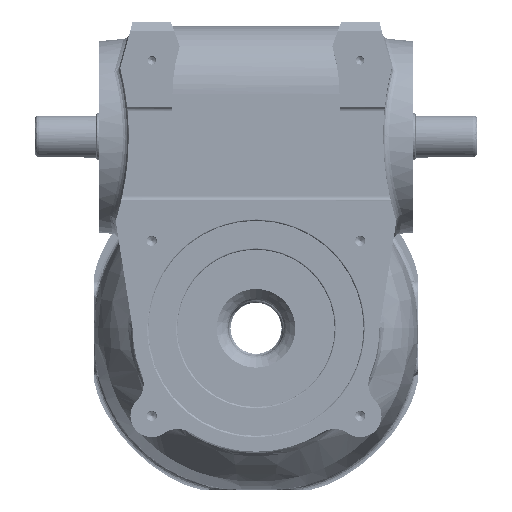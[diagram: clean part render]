
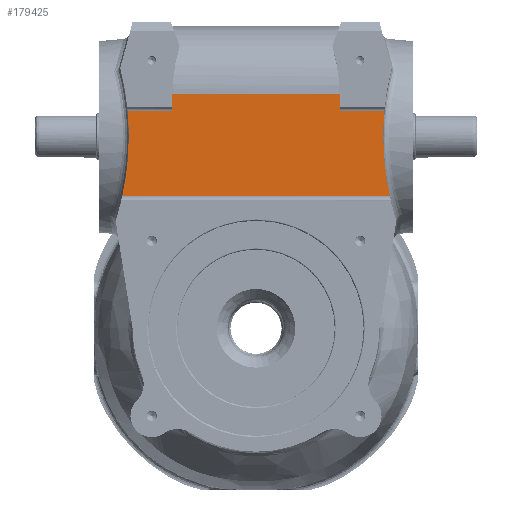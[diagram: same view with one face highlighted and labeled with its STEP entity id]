
A CAD part, front view. The second image highlights one B-rep face of the part: STEP entity #179425.
In plain terms, the highlighted planar face has unit normal (0, -1, 0).
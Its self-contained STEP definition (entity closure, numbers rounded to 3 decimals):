
#1670 = ORIENTED_EDGE ( 'NONE', *, *, #108545, .T. ) ;
#6387 = CIRCLE ( 'NONE', #208059, 642.734 ) ;
#6797 = CARTESIAN_POINT ( 'NONE',  ( -196.36, 10., 550. ) ) ;
#8107 = CARTESIAN_POINT ( 'NONE',  ( 196.36, 10., 510. ) ) ;
#9414 = PLANE ( 'NONE',  #108500 ) ;
#10415 = EDGE_LOOP ( 'NONE', ( #218415, #170583, #1670, #150445, #109278, #62085, #62193, #54122, #160778, #58608 ) ) ;
#19378 = EDGE_CURVE ( 'NONE', #182810, #225828, #104618, .T. ) ;
#26965 = CARTESIAN_POINT ( 'NONE',  ( 196.36, 10., 510. ) ) ;
#27224 = EDGE_CURVE ( 'NONE', #223761, #214337, #161068, .T. ) ;
#30832 = CARTESIAN_POINT ( 'NONE',  ( 301.776, 10., 510. ) ) ;
#33498 = VECTOR ( 'NONE', #209362, 1000. ) ;
#37250 = EDGE_CURVE ( 'NONE', #187971, #223761, #99176, .T. ) ;
#38445 = CARTESIAN_POINT ( 'NONE',  ( -301.776, 10., 510. ) ) ;
#40122 = DIRECTION ( 'NONE',  ( 0., 1., 0. ) ) ;
#41838 = CARTESIAN_POINT ( 'NONE',  ( 961.869, 10., 450. ) ) ;
#42077 = VECTOR ( 'NONE', #67625, 1000. ) ;
#44659 = DIRECTION ( 'NONE',  ( 0., 0., -1. ) ) ;
#45261 = CARTESIAN_POINT ( 'NONE',  ( 196.36, 10., 550. ) ) ;
#45966 = FACE_OUTER_BOUND ( 'NONE', #10415, .T. ) ;
#49330 = CARTESIAN_POINT ( 'NONE',  ( -290., 10., 310. ) ) ;
#50441 = EDGE_CURVE ( 'NONE', #169606, #157899, #70981, .T. ) ;
#52703 = VECTOR ( 'NONE', #186670, 1000. ) ;
#54122 = ORIENTED_EDGE ( 'NONE', *, *, #37250, .T. ) ;
#58181 = LINE ( 'NONE', #168440, #52703 ) ;
#58608 = ORIENTED_EDGE ( 'NONE', *, *, #67083, .T. ) ;
#59407 = DIRECTION ( 'NONE',  ( 0., 0., 1. ) ) ;
#62085 = ORIENTED_EDGE ( 'NONE', *, *, #99301, .T. ) ;
#62193 = ORIENTED_EDGE ( 'NONE', *, *, #152704, .T. ) ;
#65680 = CARTESIAN_POINT ( 'NONE',  ( -961.869, 10., 450. ) ) ;
#67083 = EDGE_CURVE ( 'NONE', #214337, #131379, #126745, .T. ) ;
#67625 = DIRECTION ( 'NONE',  ( 1., 0., 0. ) ) ;
#70981 = LINE ( 'NONE', #129473, #158106 ) ;
#79974 = LINE ( 'NONE', #121916, #33498 ) ;
#83177 = DIRECTION ( 'NONE',  ( 0., 0., 1. ) ) ;
#85573 = DIRECTION ( 'NONE',  ( 0., 1., 0. ) ) ;
#95199 = DIRECTION ( 'NONE',  ( 0., 0., -1. ) ) ;
#97668 = AXIS2_PLACEMENT_3D ( 'NONE', #41838, #163683, #59407 ) ;
#99176 = CIRCLE ( 'NONE', #97668, 662.814 ) ;
#99301 = EDGE_CURVE ( 'NONE', #225828, #134302, #181004, .T. ) ;
#104618 = CIRCLE ( 'NONE', #115898, 642.734 ) ;
#105729 = CARTESIAN_POINT ( 'NONE',  ( -314.487, 10., 310. ) ) ;
#108500 = AXIS2_PLACEMENT_3D ( 'NONE', #131434, #148978, #44659 ) ;
#108545 = EDGE_CURVE ( 'NONE', #157899, #136257, #79974, .T. ) ;
#109278 = ORIENTED_EDGE ( 'NONE', *, *, #19378, .T. ) ;
#113572 = CARTESIAN_POINT ( 'NONE',  ( 299.055, 10., 450. ) ) ;
#114687 = VECTOR ( 'NONE', #148718, 1000. ) ;
#115898 = AXIS2_PLACEMENT_3D ( 'NONE', #144501, #40122, #161996 ) ;
#121916 = CARTESIAN_POINT ( 'NONE',  ( -290., 10., 510. ) ) ;
#126745 = LINE ( 'NONE', #26965, #172963 ) ;
#129473 = CARTESIAN_POINT ( 'NONE',  ( -196.36, 10., 510. ) ) ;
#131379 = VERTEX_POINT ( 'NONE', #45261 ) ;
#131434 = CARTESIAN_POINT ( 'NONE',  ( -290., 10., 510. ) ) ;
#134302 = VERTEX_POINT ( 'NONE', #189475 ) ;
#134860 = CARTESIAN_POINT ( 'NONE',  ( -299.055, 10., 450. ) ) ;
#136257 = VERTEX_POINT ( 'NONE', #38445 ) ;
#144501 = CARTESIAN_POINT ( 'NONE',  ( -941.788, 10., 450. ) ) ;
#148718 = DIRECTION ( 'NONE',  ( -1., 0., 0. ) ) ;
#148978 = DIRECTION ( 'NONE',  ( 0., -1., 0. ) ) ;
#150445 = ORIENTED_EDGE ( 'NONE', *, *, #174918, .T. ) ;
#152704 = EDGE_CURVE ( 'NONE', #134302, #187971, #6387, .T. ) ;
#157899 = VERTEX_POINT ( 'NONE', #209796 ) ;
#158106 = VECTOR ( 'NONE', #95199, 1000. ) ;
#160778 = ORIENTED_EDGE ( 'NONE', *, *, #27224, .T. ) ;
#161068 = LINE ( 'NONE', #217774, #114687 ) ;
#161996 = DIRECTION ( 'NONE',  ( 0., 0., 1. ) ) ;
#163683 = DIRECTION ( 'NONE',  ( 0., 1., 0. ) ) ;
#168440 = CARTESIAN_POINT ( 'NONE',  ( -290., 10., 550. ) ) ;
#169606 = VERTEX_POINT ( 'NONE', #6797 ) ;
#170583 = ORIENTED_EDGE ( 'NONE', *, *, #50441, .T. ) ;
#172963 = VECTOR ( 'NONE', #217955, 1000. ) ;
#174918 = EDGE_CURVE ( 'NONE', #136257, #182810, #203907, .T. ) ;
#179425 = ADVANCED_FACE ( 'NONE', ( #45966 ), #9414, .T. ) ;
#181004 = LINE ( 'NONE', #49330, #42077 ) ;
#182810 = VERTEX_POINT ( 'NONE', #134860 ) ;
#186670 = DIRECTION ( 'NONE',  ( -1., 0., 0. ) ) ;
#187388 = DIRECTION ( 'NONE',  ( 0., 1., 0. ) ) ;
#187971 = VERTEX_POINT ( 'NONE', #113572 ) ;
#189475 = CARTESIAN_POINT ( 'NONE',  ( 314.487, 10., 310. ) ) ;
#189781 = CARTESIAN_POINT ( 'NONE',  ( 941.788, 10., 450. ) ) ;
#203907 = CIRCLE ( 'NONE', #226017, 662.814 ) ;
#207215 = DIRECTION ( 'NONE',  ( 0., 0., 1. ) ) ;
#208059 = AXIS2_PLACEMENT_3D ( 'NONE', #189781, #85573, #207215 ) ;
#209362 = DIRECTION ( 'NONE',  ( -1., 0., 0. ) ) ;
#209796 = CARTESIAN_POINT ( 'NONE',  ( -196.36, 10., 510. ) ) ;
#212891 = EDGE_CURVE ( 'NONE', #131379, #169606, #58181, .T. ) ;
#214337 = VERTEX_POINT ( 'NONE', #8107 ) ;
#217774 = CARTESIAN_POINT ( 'NONE',  ( -290., 10., 510. ) ) ;
#217955 = DIRECTION ( 'NONE',  ( 0., 0., 1. ) ) ;
#218415 = ORIENTED_EDGE ( 'NONE', *, *, #212891, .T. ) ;
#223761 = VERTEX_POINT ( 'NONE', #30832 ) ;
#225828 = VERTEX_POINT ( 'NONE', #105729 ) ;
#226017 = AXIS2_PLACEMENT_3D ( 'NONE', #65680, #187388, #83177 ) ;
